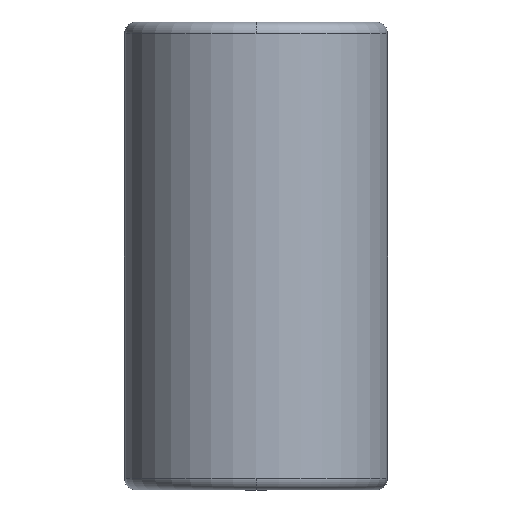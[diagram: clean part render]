
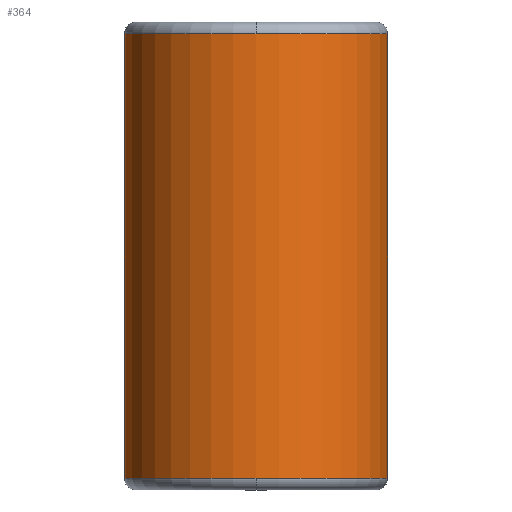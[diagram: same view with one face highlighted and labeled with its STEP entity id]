
A CAD part, front view. The second image highlights one B-rep face of the part: STEP entity #364.
In plain terms, the highlighted cylindrical face has radius 22.494 mm (diameter 44.988 mm), a partial arc.
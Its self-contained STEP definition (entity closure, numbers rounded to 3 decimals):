
#269=CARTESIAN_POINT('',(0.0,-22.494,78.0));
#270=VERTEX_POINT('',#269);
#296=CARTESIAN_POINT('',(-22.494,0.,78.0));
#297=VERTEX_POINT('',#296);
#305=CARTESIAN_POINT('',(0.0,0.,78.0));
#306=DIRECTION('',(0.0,0.0,1.0));
#307=DIRECTION('',(1.0,0.0,0.0));
#308=AXIS2_PLACEMENT_3D('',#305,#306,#307);
#309=CIRCLE('',#308,22.494);
#310=EDGE_CURVE('',#297,#270,#309,.T.);
#315=CARTESIAN_POINT('',(0.0,0.,40.0));
#316=DIRECTION('',(0.0,0.,1.0));
#317=DIRECTION('',(1.0,0.0,0.0));
#318=AXIS2_PLACEMENT_3D('',#315,#316,#317);
#319=CYLINDRICAL_SURFACE('',#318,22.494);
#320=CARTESIAN_POINT('',(22.494,0.,78.0));
#321=VERTEX_POINT('',#320);
#322=CARTESIAN_POINT('',(22.494,0.,2.));
#323=VERTEX_POINT('',#322);
#324=CARTESIAN_POINT('',(22.494,0.,78.0));
#325=DIRECTION('',(0.0,0.0,-1.0));
#326=VECTOR('',#325,76.0);
#327=LINE('',#324,#326);
#328=EDGE_CURVE('',#321,#323,#327,.T.);
#329=ORIENTED_EDGE('',*,*,#328,.F.);
#330=CARTESIAN_POINT('',(0.0,0.,78.0));
#331=DIRECTION('',(0.0,0.0,1.0));
#332=DIRECTION('',(1.0,0.0,0.0));
#333=AXIS2_PLACEMENT_3D('',#330,#331,#332);
#334=CIRCLE('',#333,22.494);
#335=EDGE_CURVE('',#270,#321,#334,.T.);
#336=ORIENTED_EDGE('',*,*,#335,.F.);
#337=ORIENTED_EDGE('',*,*,#310,.F.);
#338=CARTESIAN_POINT('',(-22.494,0.,2.0));
#339=VERTEX_POINT('',#338);
#340=CARTESIAN_POINT('',(-22.494,0.,78.0));
#341=DIRECTION('',(0.0,0.0,-1.0));
#342=VECTOR('',#341,76.0);
#343=LINE('',#340,#342);
#344=EDGE_CURVE('',#297,#339,#343,.T.);
#345=ORIENTED_EDGE('',*,*,#344,.T.);
#346=CARTESIAN_POINT('',(0.0,-22.494,2.));
#347=VERTEX_POINT('',#346);
#348=CARTESIAN_POINT('',(0.0,0.,2.0));
#349=DIRECTION('',(0.0,0.0,1.0));
#350=DIRECTION('',(1.0,0.0,0.0));
#351=AXIS2_PLACEMENT_3D('',#348,#349,#350);
#352=CIRCLE('',#351,22.494);
#353=EDGE_CURVE('',#339,#347,#352,.T.);
#354=ORIENTED_EDGE('',*,*,#353,.T.);
#355=CARTESIAN_POINT('',(0.0,0.,2.0));
#356=DIRECTION('',(0.0,0.0,1.0));
#357=DIRECTION('',(1.0,0.0,0.0));
#358=AXIS2_PLACEMENT_3D('',#355,#356,#357);
#359=CIRCLE('',#358,22.494);
#360=EDGE_CURVE('',#347,#323,#359,.T.);
#361=ORIENTED_EDGE('',*,*,#360,.T.);
#362=EDGE_LOOP('',(#329,#336,#337,#345,#354,#361));
#363=FACE_OUTER_BOUND('',#362,.T.);
#364=ADVANCED_FACE('',(#363),#319,.T.);
